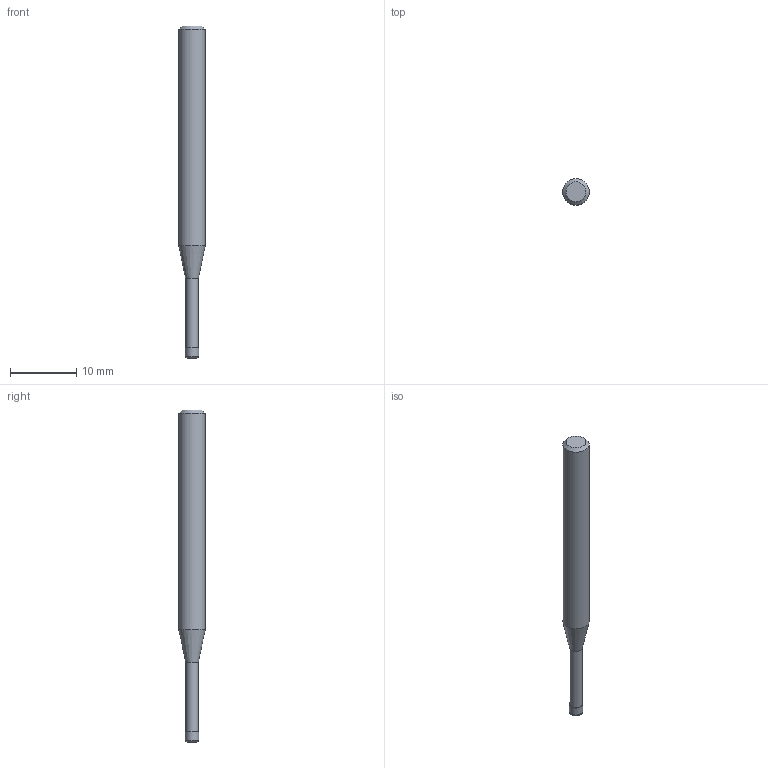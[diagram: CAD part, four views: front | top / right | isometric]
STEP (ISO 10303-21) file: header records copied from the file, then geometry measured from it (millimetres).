
FILE_DESCRIPTION((''),'2;1');
FILE_NAME('C:\Users\nsx150\AppData\Local\Temp\Mastercam 2021\17T8Q8S9EB\TEMP.step','2021-04-21T14:37:36',(''),(''),'STEP Write','Mastercam 2021 ... CNC Software, Inc.','');
FILE_SCHEMA(('AUTOMOTIVE_DESIGN'));
Length unit declared in the file: millimetre
Products named in the file (1): None
Bounding box: 4 x 4 x 50 mm (x, y, z)
Volume: 484.1 mm3; surface area: 551.7 mm2
Topology: 2 solids, 2 shells, 10 faces, 14 edges, 8 vertices
Faces by surface type: plane 4, cylinder 3, cone 2, torus 1
Full cylindrical faces by diameter (mm): 1.91 x1, 2 x1, 4 x1
Entity records: 232 total; most frequent: DIRECTION 40, CARTESIAN_POINT 28, AXIS2_PLACEMENT_3D 20, ORIENTED_EDGE 16, EDGE_LOOP 16, STYLED_ITEM 13, ADVANCED_FACE 10, FACE_BOUND 10
